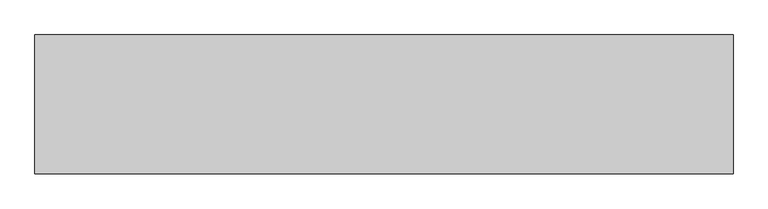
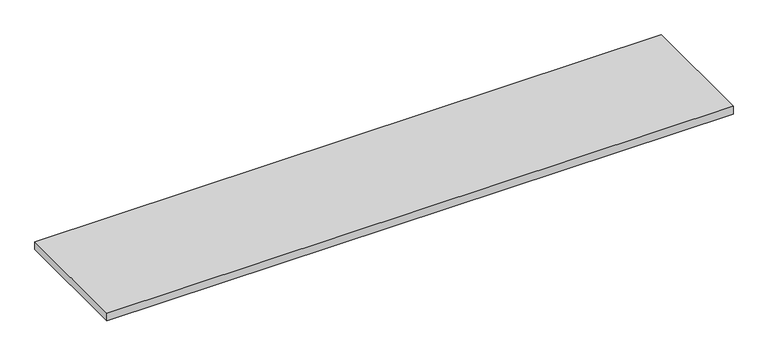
"""IFC4 building model written with IfcOpenShell, lengths in millimetres: furniture geometry, BK Library - Top Plate - HYOT : BK Library - Top Plate - HYOT."""

import ifcopenshell
import ifcopenshell.guid

model = None  # the IFC model being written
_history = None  # IfcOwnerHistory: only IFC2X3 demands one
_inside = {}  # id of a spatial element -> (the spatial element, [elements in it])
_under = {}  # id of a project, library or spatial element -> (it, [spatial elements below it])
_declared = {}  # id of a project -> (the project, [libraries it declares])
_typed = {}  # id of a type object -> (the type object, [elements of that type])
_made_of = {}  # id of a material, layer set ... -> (it, [elements and type objects made of it])


def new_model(schema):
    """Start an empty IFC model of exactly this schema.

    Asked for "IFC4X3", IfcOpenShell would pick the latest addendum, in which some entities
    have other attributes; the version numbers below select the first issue.
    IFC2X3 requires an IfcOwnerHistory on every rooted entity: one is made here for all.
    """
    global model, _history
    if schema == "IFC4X3":
        model = ifcopenshell.file(schema_version=(4, 3, 0, 0))
    else:
        model = ifcopenshell.file(schema=schema)
    _inside.clear()
    _under.clear()
    _declared.clear()
    _typed.clear()
    _made_of.clear()
    _history = None
    if model.schema == "IFC2X3":
        org = make("IfcOrganization", Name="unknown")
        user = make(
            "IfcPersonAndOrganization",
            ThePerson=make("IfcPerson", FamilyName="unknown"),
            TheOrganization=org,
        )
        app = make(
            "IfcApplication",
            ApplicationDeveloper=org,
            Version="unknown",
            ApplicationFullName="unknown",
            ApplicationIdentifier="unknown",
        )
        _history = make(
            "IfcOwnerHistory",
            OwningUser=user,
            OwningApplication=app,
            ChangeAction="ADDED",
            CreationDate=0,
        )
    return model


def make(cls, **values):
    """One entity of the class cls with the attributes given. An attribute that is None is left unset."""
    return model.create_entity(
        cls, **{name: value for name, value in values.items() if value is not None}
    )


def rooted(cls, **values):
    """An entity with a GlobalId (a new one), such as an element, a storey or a relation."""
    return make(cls, GlobalId=ifcopenshell.guid.new(), OwnerHistory=_history, **values)


def si_unit(unit_type, name, prefix=None):
    """IfcSIUnit, for example si_unit("LENGTHUNIT", "METRE", prefix="MILLI")."""
    return make("IfcSIUnit", UnitType=unit_type, Prefix=prefix, Name=name)


def assignment(units):
    """IfcUnitAssignment: the units of a project."""
    return None if units is None else make("IfcUnitAssignment", Units=units)


def point(xyz):
    """IfcCartesianPoint."""
    return None if xyz is None else make("IfcCartesianPoint", Coordinates=xyz)


def direction(xyz):
    """IfcDirection."""
    return None if xyz is None else make("IfcDirection", DirectionRatios=xyz)


def frame(location, z_axis=None, x_axis=None):
    """IfcAxis2Placement3D, a coordinate frame: its origin and axes. An axis left out is left unset."""
    return make(
        "IfcAxis2Placement3D",
        Location=point(location),
        Axis=direction(z_axis),
        RefDirection=direction(x_axis),
    )


def origin():
    """The frame at (0, 0, 0) with its axes left unset."""
    return frame((0.0, 0.0, 0.0))


def place(relative_to, where):
    """IfcLocalPlacement: puts the frame where relative to a parent placement (None: the world)."""
    return make(
        "IfcLocalPlacement", PlacementRelTo=relative_to, RelativePlacement=where
    )


def context(
    kind, dimensions, precision=None, world=None, true_north=None, identifier=None
):
    """IfcGeometricRepresentationContext, for example the 3D "Model" context."""
    return make(
        "IfcGeometricRepresentationContext",
        ContextIdentifier=identifier,
        ContextType=kind,
        CoordinateSpaceDimension=dimensions,
        Precision=precision,
        WorldCoordinateSystem=world,
        TrueNorth=true_north,
    )


def project(units=None, contexts=None):
    """IfcProject with its units and contexts."""
    return rooted(
        "IfcProject",
        Name="project",
        RepresentationContexts=contexts,
        UnitsInContext=assignment(units),
    )


def spatial(cls, under=None, at=None, **own):
    """A site, building, storey or space (cls), placed at a placement, below another one or the project."""
    s = rooted(cls, ObjectPlacement=at, **own)
    if under is not None:
        _under.setdefault(under.id(), (under, []))[1].append(s)
    return s


def polyline(points):
    """IfcPolyline through the points."""
    return make("IfcPolyline", Points=[point(p) for p in points])


def outline(outer, holes=None, kind="AREA"):
    """IfcArbitraryClosedProfileDef: a profile drawn as a closed curve; with holes, ...WithVoids."""
    if holes is None:
        return make("IfcArbitraryClosedProfileDef", ProfileType=kind, OuterCurve=outer)
    return make(
        "IfcArbitraryProfileDefWithVoids",
        ProfileType=kind,
        OuterCurve=outer,
        InnerCurves=holes,
    )


def extrude(swept, where, along, depth):
    """IfcExtrudedAreaSolid: the profile swept, set in the frame where, extruded along a direction by depth."""
    return make(
        "IfcExtrudedAreaSolid",
        SweptArea=swept,
        Position=where,
        ExtrudedDirection=direction(along),
        Depth=depth,
    )


def shape(context_of_items, identifier, shape_type, items):
    """IfcShapeRepresentation: the items that make up one representation, for example the "Body"."""
    return make(
        "IfcShapeRepresentation",
        ContextOfItems=context_of_items,
        RepresentationIdentifier=identifier,
        RepresentationType=shape_type,
        Items=items,
    )


def source(mapping_origin, context_of_items, identifier, shape_type, items):
    """IfcRepresentationMap: a shape defined once, which mapped items show again and again."""
    return make(
        "IfcRepresentationMap",
        MappingOrigin=mapping_origin,
        MappedRepresentation=shape(context_of_items, identifier, shape_type, items),
    )


def transform(
    local_origin,
    x_axis=None,
    y_axis=None,
    z_axis=None,
    scale=None,
    scale2=None,
    scale3=None,
    uniform=True,
):
    """IfcCartesianTransformationOperator3D, or its non-uniform kind. x_axis, y_axis, z_axis: its Axis1, 2, 3."""
    if uniform:
        return make(
            "IfcCartesianTransformationOperator3D",
            Axis1=direction(x_axis),
            Axis2=direction(y_axis),
            LocalOrigin=point(local_origin),
            Scale=scale,
            Axis3=direction(z_axis),
        )
    return make(
        "IfcCartesianTransformationOperator3DnonUniform",
        Axis1=direction(x_axis),
        Axis2=direction(y_axis),
        LocalOrigin=point(local_origin),
        Scale=scale,
        Axis3=direction(z_axis),
        Scale2=scale2,
        Scale3=scale3,
    )


def mapped(mapping_source, mapping_target):
    """IfcMappedItem: shows the shape of a source again, moved by a transform."""
    return make(
        "IfcMappedItem", MappingSource=mapping_source, MappingTarget=mapping_target
    )


def made_of(thing, what):
    """Note that an element or type object is made of a material, layer set ...; save() writes the relation."""
    if what is not None:
        _made_of.setdefault(what.id(), (what, []))[1].append(thing)
    return thing


def element(
    cls,
    number,
    at=None,
    inside=None,
    cuts=None,
    type_object=None,
    material=None,
    context=None,
    identifier="Body",
    shape_type=None,
    held_by="IfcProductDefinitionShape",
    body=None,
    shapes=None,
    **own,
):
    """One element of the class cls, such as IfcWall. Its Tag is "e" and its number.

    at: its placement. inside: the storey or other place that contains it. cuts: it is an
    opening in that element (IfcRelVoidsElement). A single representation is given by context,
    identifier, shape_type and body (its items); several are given by shapes. held_by: the class
    of the entity that holds the representations. save() writes the other relations.
    """
    e = rooted(cls, Tag="e%d" % number, ObjectPlacement=at, **own)
    if body is not None:
        shapes = [shape(context, identifier, shape_type, body)]
    if shapes is not None:
        e.Representation = make(held_by, Representations=shapes)
    if inside is not None:
        _inside.setdefault(inside.id(), (inside, []))[1].append(e)
    if cuts is not None:
        rooted(
            "IfcRelVoidsElement", RelatingBuildingElement=cuts, RelatedOpeningElement=e
        )
    if type_object is not None:
        _typed.setdefault(type_object.id(), (type_object, []))[1].append(e)
    return made_of(e, material)


def aggregate(whole, parts):
    """IfcRelAggregates: a whole, such as a stair, and the parts it consists of."""
    return rooted("IfcRelAggregates", RelatingObject=whole, RelatedObjects=parts)


def save(model, path):
    """Write the relations noted so far, then the file.

    IfcRelAggregates (storeys below a building ...), IfcRelContainedInSpatialStructure (elements
    in a storey), IfcRelDefinesByType, IfcRelAssociatesMaterial and IfcRelDeclares: one each for
    every whole, place, type object, material and project.
    """
    for whole, parts in _under.values():
        aggregate(whole, parts)
    for where, things in _inside.values():
        rooted(
            "IfcRelContainedInSpatialStructure",
            RelatedElements=things,
            RelatingStructure=where,
        )
    for kind, things in _typed.values():
        rooted("IfcRelDefinesByType", RelatedObjects=things, RelatingType=kind)
    for what, things in _made_of.values():
        rooted("IfcRelAssociatesMaterial", RelatedObjects=things, RelatingMaterial=what)
    for by, libraries in _declared.values():
        rooted("IfcRelDeclares", RelatingContext=by, RelatedDefinitions=libraries)
    model.write(path)


def furniture_9ea05a3f(model_context):
    return source(origin(), model_context, "Body", "SweptSolid", [
        extrude(outline(polyline([(740.5, -147.5), (-740.5, -147.5), (-740.5, 147.5), (740.5, 147.5), (740.5, -147.5)])), frame((0.0, 0.0, -9.5), z_axis=(0.0, 0.0, 1.0), x_axis=(1.0, 0.0, 0.0)), (0.0, 0.0, 1.0), 19.0),
    ])


if __name__ == "__main__":
    model = new_model("IFC4")
    model_context = context("Model", 3, world=origin())
    ifc_project = project(units=[si_unit("LENGTHUNIT", "METRE", prefix="MILLI")], contexts=[model_context])
    site = spatial("IfcSite", under=ifc_project)
    building = spatial("IfcBuilding", under=site)
    placement = place(None, origin())
    furniture_shape = furniture_9ea05a3f(model_context)
    element("IfcFurniture", 1, ObjectType="BK Library - Top Plate - HYOT : BK Library - Top Plate - HYOT", at=placement, inside=building, context=model_context, shape_type="MappedRepresentation", body=[
        mapped(furniture_shape, transform((0.0, 0.0, 0.0), x_axis=(1.0, 0.0, 0.0), y_axis=(0.0, 1.0, 0.0), z_axis=(0.0, 0.0, 1.0))),
    ])
    save(model, "model.ifc")
